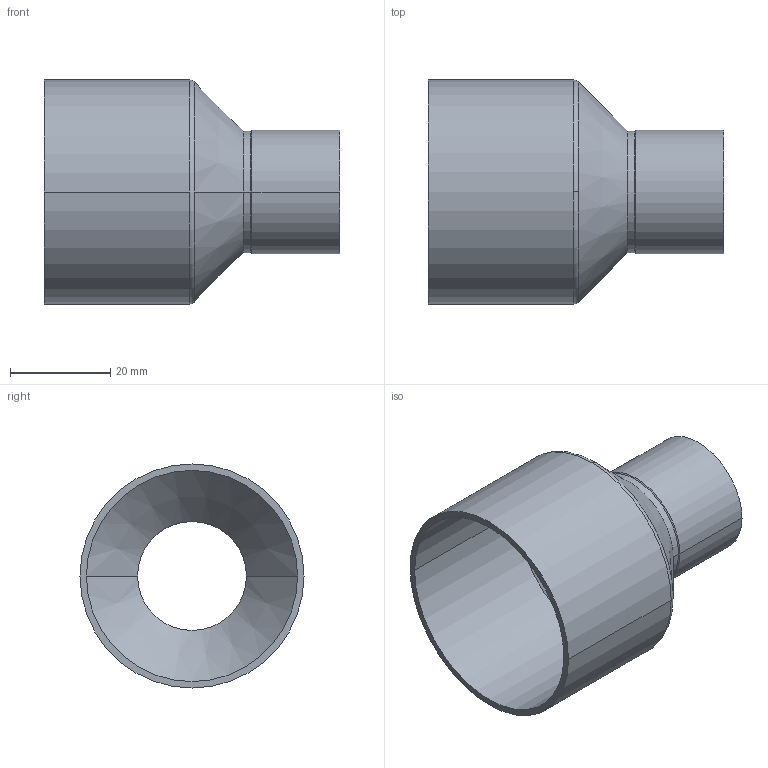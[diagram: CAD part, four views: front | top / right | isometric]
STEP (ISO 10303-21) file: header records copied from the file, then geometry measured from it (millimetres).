
FILE_DESCRIPTION((''),'2;1');
FILE_NAME('G:\Technics\CAD\Bauteile\Serie 15240\152404222.stp','2005-10-21T12:51:14',('boden'),(''),'Autodesk Inventor 8','Autodesk Inventor 8','');
FILE_SCHEMA(('AUTOMOTIVE_DESIGN { 1 0 10303 214 1 1 1 1 }'));
Length unit declared in the file: millimetre
Products named in the file (1): 152404222
Bounding box: 59 x 44.75 x 44.75 mm (x, y, z)
Volume: 9021.3 mm3; surface area: 14151.8 mm2
Topology: 1 solids, 1 shells, 24 faces, 52 edges, 30 vertices
Faces by surface type: cylinder 12, cone 8, torus 2, plane 2
Entity records: 683 total; most frequent: DIRECTION 134, CARTESIAN_POINT 107, ORIENTED_EDGE 104, AXIS2_PLACEMENT_3D 57, EDGE_CURVE 52, CIRCLE 32, VERTEX_POINT 30, EDGE_LOOP 26
